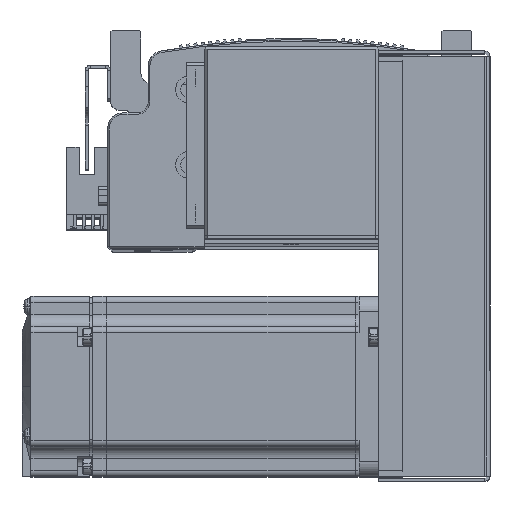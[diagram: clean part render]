
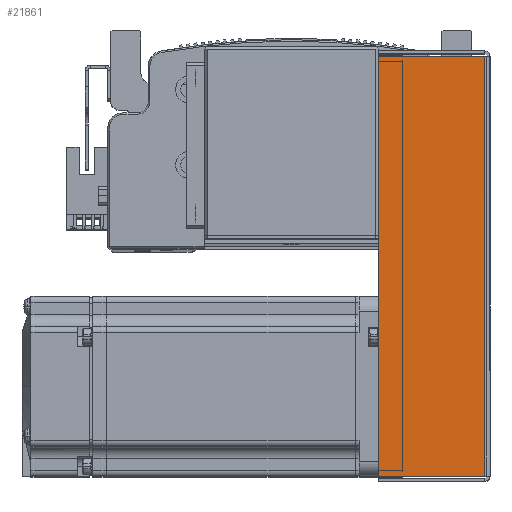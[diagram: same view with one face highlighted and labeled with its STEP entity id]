
A CAD part, top view. The second image highlights one B-rep face of the part: STEP entity #21861.
In plain terms, the highlighted planar face has unit normal (0, 0, 1).
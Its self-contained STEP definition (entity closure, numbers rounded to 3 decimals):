
#987 = LINE ( 'NONE', #71301, #996 ) ;
#988 = LINE ( 'NONE', #71342, #1085 ) ;
#996 = VECTOR ( 'NONE', #71367, 1000. ) ;
#1030 = LINE ( 'NONE', #71335, #1032 ) ;
#1032 = VECTOR ( 'NONE', #71321, 1000. ) ;
#1072 = VECTOR ( 'NONE', #71365, 1000. ) ;
#1079 = LINE ( 'NONE', #71358, #1072 ) ;
#1085 = VECTOR ( 'NONE', #71315, 1000. ) ;
#9385 = ORIENTED_EDGE ( 'NONE', *, *, #65347, .F. ) ;
#9412 = ORIENTED_EDGE ( 'NONE', *, *, #65334, .T. ) ;
#9428 = ORIENTED_EDGE ( 'NONE', *, *, #65344, .T. ) ;
#9429 = ORIENTED_EDGE ( 'NONE', *, *, #65339, .F. ) ;
#21861 = ADVANCED_FACE ( 'NONE', ( #55409 ), #44737, .F. ) ;
#28130 = CARTESIAN_POINT ( 'NONE',  ( -69.793, 0.737, 33.5 ) ) ;
#28168 = CARTESIAN_POINT ( 'NONE',  ( -69.793, 36., 33.5 ) ) ;
#28186 = CARTESIAN_POINT ( 'NONE',  ( 69.793, 36., 33.5 ) ) ;
#28190 = CARTESIAN_POINT ( 'NONE',  ( 69.793, 0.737, 33.5 ) ) ;
#35940 = AXIS2_PLACEMENT_3D ( 'NONE', #44739, #44762, #44741 ) ;
#44737 = PLANE ( 'NONE',  #35940 ) ;
#44739 = CARTESIAN_POINT ( 'NONE',  ( 0., 0., 33.5 ) ) ;
#44741 = DIRECTION ( 'NONE',  ( -1., 0., 0. ) ) ;
#44762 = DIRECTION ( 'NONE',  ( 0., 0., -1. ) ) ;
#46688 = EDGE_LOOP ( 'NONE', ( #9385, #9428, #9412, #9429 ) ) ;
#55409 = FACE_OUTER_BOUND ( 'NONE', #46688, .T. ) ;
#57414 = VERTEX_POINT ( 'NONE', #28186 ) ;
#57417 = VERTEX_POINT ( 'NONE', #28190 ) ;
#57435 = VERTEX_POINT ( 'NONE', #28130 ) ;
#57442 = VERTEX_POINT ( 'NONE', #28168 ) ;
#65334 = EDGE_CURVE ( 'NONE', #57414, #57442, #987, .T. ) ;
#65339 = EDGE_CURVE ( 'NONE', #57435, #57442, #988, .T. ) ;
#65344 = EDGE_CURVE ( 'NONE', #57417, #57414, #1030, .T. ) ;
#65347 = EDGE_CURVE ( 'NONE', #57417, #57435, #1079, .T. ) ;
#71301 = CARTESIAN_POINT ( 'NONE',  ( 0., 36., 33.5 ) ) ;
#71315 = DIRECTION ( 'NONE',  ( 0., 1., 0. ) ) ;
#71321 = DIRECTION ( 'NONE',  ( 0., 1., 0. ) ) ;
#71335 = CARTESIAN_POINT ( 'NONE',  ( 69.793, 0., 33.5 ) ) ;
#71342 = CARTESIAN_POINT ( 'NONE',  ( -69.793, 0., 33.5 ) ) ;
#71358 = CARTESIAN_POINT ( 'NONE',  ( -71.5, 0.737, 33.5 ) ) ;
#71365 = DIRECTION ( 'NONE',  ( -1., 0., 0. ) ) ;
#71367 = DIRECTION ( 'NONE',  ( -1., 0., 0. ) ) ;
